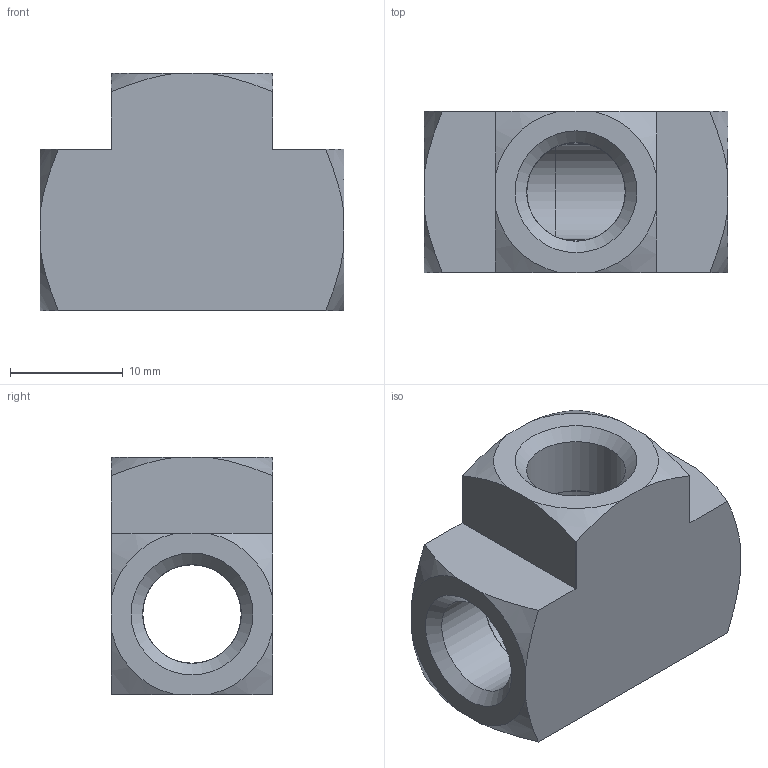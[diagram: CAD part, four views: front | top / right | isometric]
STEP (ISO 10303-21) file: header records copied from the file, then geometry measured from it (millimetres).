
FILE_DESCRIPTION(/* description */ (''),/* implementation_level */ '2;1');
FILE_NAME(/* name */ 'C:/Users/drich/Desktop/T-18 v1.step',/* time_stamp */ '2020-02-09T11:07:53-06:00',/* author */ (''),/* organization */ (''),/* preprocessor_version */ 'ST-DEVELOPER v18',/* originating_system */ 'Autodesk Translation Framework v8.12.0.6',/* authorisation */ '');
FILE_SCHEMA (('AUTOMOTIVE_DESIGN { 1 0 10303 214 3 1 1 }'));
Length unit declared in the file: inch
Products named in the file (1): T-18
Bounding box: 26.92 x 14.27 x 21.01 mm (x, y, z)
Volume: 4530.8 mm3; surface area: 3000.1 mm2
Topology: 1 solids, 1 shells, 40 faces, 111 edges, 75 vertices
Faces by surface type: cone 17, plane 13, cylinder 10
Full cylindrical faces by diameter (mm): 8.712 x3, 8.763 x3
Entity records: 1340 total; most frequent: CARTESIAN_POINT 286, ORIENTED_EDGE 222, DIRECTION 215, EDGE_CURVE 111, AXIS2_PLACEMENT_3D 89, VERTEX_POINT 75, EDGE_LOOP 46, CIRCLE 43
